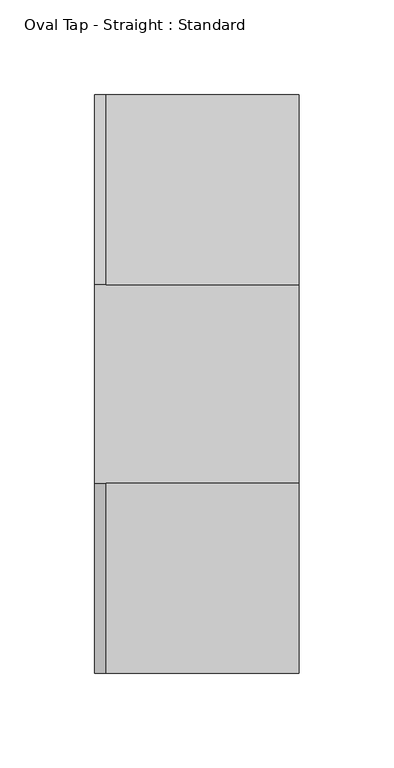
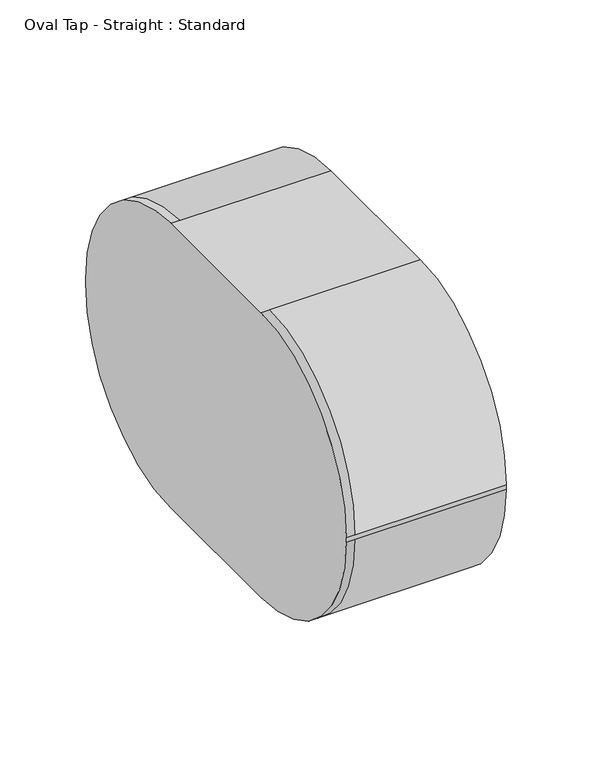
"""IFC4 building model written with IfcOpenShell, lengths in millimetres: duct fitting geometry, Oval Tap - Straight : Standard."""

from ifc_helpers import new_model, si_unit, frame, origin, place, context, project, spatial, circle_curve, source, transform, mapped, element, save
from ifc_brep_helpers import plane_surface, cylinder_surface, advanced_brep


def oval_tap_straight_standard_1d19fd39(model_context):
    return source(origin(), model_context, "Body", "AdvancedBrep", [
        advanced_brep(
        [(101.6, -52.3875, 101.6), (101.6, -152.4, 1.5875), (101.6, -152.4, -1.5875), (101.6, -52.3875, -101.6), (101.6, 52.3875, -101.6), (101.6, 152.4, -1.5875), (101.6, 152.4, 1.5875), (101.6, 52.3875, 101.6), (0.0, -52.3875, 101.6), (0.0, -152.4, 1.5875), (-6.096, -152.4, 1.5875), (-6.096, -152.4, -1.5875), (0.0, -152.4, -1.5875), (0.0, -52.3875, -101.6), (-6.096, -52.3875, -101.6), (-6.096, 52.3875, -101.6), (0.0, 52.3875, -101.6), (0.0, 152.4, -1.5875), (-6.096, 152.4, -1.5875), (-6.096, 152.4, 1.5875), (0.0, 152.4, 1.5875), (0.0, 52.3875, 101.6), (-6.096, 52.3875, 101.6), (-6.096, -52.3875, 101.6)],
        [
            (0, 1, circle_curve(frame((101.6, -52.3875, 1.5875), z_axis=(1.0, 0.0, 0.0), x_axis=(0.0, -1.0, 0.0)), 100.0125)),
            (1, 2),
            (2, 3, circle_curve(frame((101.6, -52.3875, -1.5875), z_axis=(1.0, 0.0, 0.0), x_axis=(0.0, 0.0, -1.0)), 100.0125)),
            (3, 4),
            (4, 5, circle_curve(frame((101.6, 52.3875, -1.5875), z_axis=(1.0, 0.0, 0.0), x_axis=(0.0, 1.0, 0.0)), 100.0125)),
            (5, 6),
            (6, 7, circle_curve(frame((101.6, 52.3875, 1.5875), z_axis=(1.0, 0.0, 0.0), x_axis=(0.0, 0.0, 1.0)), 100.0125)),
            (7, 0),
            (0, 8),
            (8, 9, circle_curve(frame((0.0, -52.3875, 1.5875), z_axis=(1.0, 0.0, 0.0), x_axis=(0.0, -1.0, 0.0)), 100.0125)),
            (9, 1),
            (9, 10),
            (10, 11),
            (11, 12),
            (12, 2),
            (12, 13, circle_curve(frame((0.0, -52.3875, -1.5875), z_axis=(1.0, 0.0, 0.0), x_axis=(0.0, 0.0, -1.0)), 100.0125)),
            (13, 3),
            (13, 14),
            (14, 15),
            (15, 16),
            (16, 4),
            (16, 17, circle_curve(frame((0.0, 52.3875, -1.5875), z_axis=(1.0, 0.0, 0.0), x_axis=(0.0, 1.0, 0.0)), 100.0125)),
            (17, 5),
            (17, 18),
            (18, 19),
            (19, 20),
            (20, 6),
            (20, 21, circle_curve(frame((0.0, 52.3875, 1.5875), z_axis=(1.0, 0.0, 0.0), x_axis=(0.0, 0.0, 1.0)), 100.0125)),
            (21, 7),
            (21, 22),
            (22, 23),
            (23, 8),
            (22, 19, circle_curve(frame((-6.096, 52.3875, 1.5875), z_axis=(-1.0, 0.0, 0.0), x_axis=(0.0, 1.0, 0.0)), 100.0125)),
            (18, 15, circle_curve(frame((-6.096, 52.3875, -1.5875), z_axis=(-1.0, 0.0, 0.0), x_axis=(0.0, 1.0, 0.0)), 100.0125)),
            (14, 11, circle_curve(frame((-6.096, -52.3875, -1.5875), z_axis=(-1.0, 0.0, 0.0), x_axis=(0.0, 1.0, 0.0)), 100.0125)),
            (10, 23, circle_curve(frame((-6.096, -52.3875, 1.5875), z_axis=(-1.0, 0.0, 0.0), x_axis=(0.0, 1.0, 0.0)), 100.0125)),
        ],
        [
            plane_surface(frame((101.6, 0.0, 0.0), z_axis=(1.0, 0.0, 0.0), x_axis=(0.0, -1.0, 0.0))),
            cylinder_surface(frame((0.0, -52.3875, 1.5875), z_axis=(1.0, 0.0, 0.0), x_axis=(0.0, -1.0, 0.0)), 100.0125),
            plane_surface(frame((0.0, -152.4, 0.0), z_axis=(0.0, -1.0, 0.0), x_axis=(0.0, 0.0, -1.0))),
            cylinder_surface(frame((0.0, -52.3875, -1.5875), z_axis=(1.0, 0.0, 0.0), x_axis=(0.0, 0.0, -1.0)), 100.0125),
            plane_surface(frame((0.0, 0.0, -101.6), z_axis=(0.0, 0.0, -1.0), x_axis=(0.0, 1.0, 0.0))),
            cylinder_surface(frame((0.0, 52.3875, -1.5875), z_axis=(1.0, 0.0, 0.0), x_axis=(0.0, 1.0, 0.0)), 100.0125),
            plane_surface(frame((0.0, 152.4, 0.0), z_axis=(0.0, 1.0, 0.0), x_axis=(0.0, 0.0, 1.0))),
            cylinder_surface(frame((0.0, 52.3875, 1.5875), z_axis=(1.0, 0.0, 0.0), x_axis=(0.0, 0.0, 1.0)), 100.0125),
            plane_surface(frame((0.0, 0.0, 101.6), z_axis=(0.0, 0.0, 1.0), x_axis=(0.0, -1.0, 0.0))),
            plane_surface(frame((-6.096, 0.0, 0.0), z_axis=(-1.0, 0.0, 0.0), x_axis=(0.0, 0.0, 1.0))),
            cylinder_surface(frame((-6.096, 52.3875, 1.5875), z_axis=(-1.0, 0.0, 0.0), x_axis=(0.0, 1.0, 0.0)), 100.0125),
            cylinder_surface(frame((-6.096, 52.3875, -1.5875), z_axis=(-1.0, 0.0, 0.0), x_axis=(0.0, 1.0, 0.0)), 100.0125),
            cylinder_surface(frame((-6.096, -52.3875, -1.5875), z_axis=(-1.0, 0.0, 0.0), x_axis=(0.0, 1.0, 0.0)), 100.0125),
            cylinder_surface(frame((-6.096, -52.3875, 1.5875), z_axis=(-1.0, 0.0, 0.0), x_axis=(0.0, 1.0, 0.0)), 100.0125),
        ],
        [
            (0, [[1, 2, 3, 4, 5, 6, 7, 8]]),
            (1, [[-1, 9, 10, 11]]),
            (2, [[-2, -11, 12, 13, 14, 15]]),
            (3, [[-3, -15, 16, 17]]),
            (4, [[-4, -17, 18, 19, 20, 21]]),
            (5, [[-5, -21, 22, 23]]),
            (6, [[-6, -23, 24, 25, 26, 27]]),
            (7, [[-7, -27, 28, 29]]),
            (8, [[-8, -29, 30, 31, 32, -9]]),
            (9, [[-31, 33, -25, 34, -19, 35, -13, 36]]),
            (10, [[-33, -30, -28, -26]]),
            (11, [[-34, -24, -22, -20]]),
            (12, [[-35, -18, -16, -14]]),
            (13, [[-36, -12, -10, -32]]),
        ],
    ),
    ])


if __name__ == "__main__":
    model = new_model("IFC4")
    model_context = context("Model", 3, world=origin())
    ifc_project = project(units=[si_unit("LENGTHUNIT", "METRE", prefix="MILLI")], contexts=[model_context])
    site = spatial("IfcSite", under=ifc_project)
    building = spatial("IfcBuilding", under=site)
    placement = place(None, origin())
    oval_tap_straight_standard_shape = oval_tap_straight_standard_1d19fd39(model_context)
    element("IfcDuctFitting", 1, ObjectType="Oval Tap - Straight : Standard", at=placement, inside=building, context=model_context, shape_type="MappedRepresentation", body=[
        mapped(oval_tap_straight_standard_shape, transform((0.0, 0.0, 0.0), x_axis=(1.0, 0.0, 0.0), y_axis=(0.0, 1.0, 0.0), z_axis=(0.0, 0.0, 1.0))),
    ])
    save(model, "model.ifc")
